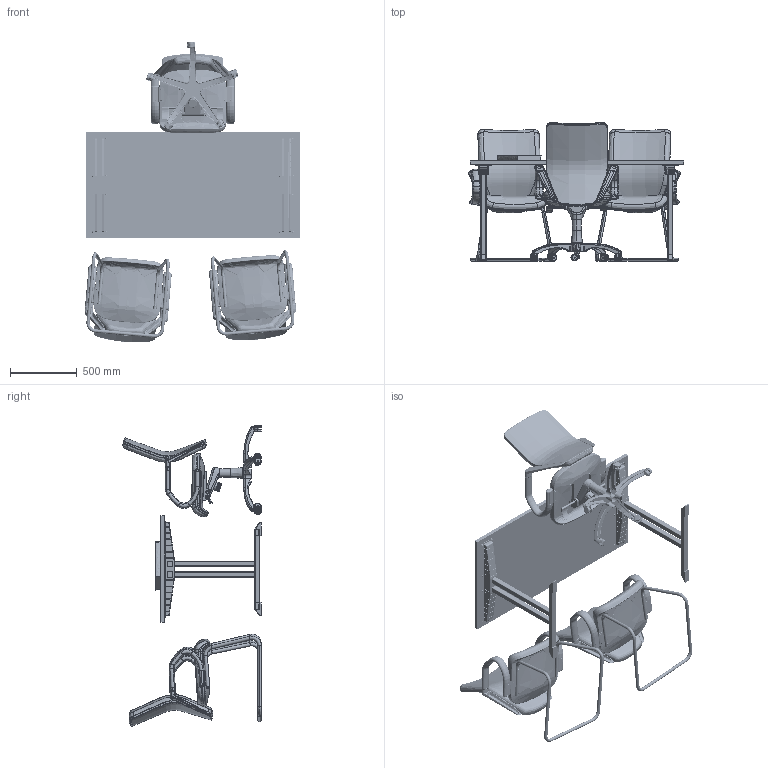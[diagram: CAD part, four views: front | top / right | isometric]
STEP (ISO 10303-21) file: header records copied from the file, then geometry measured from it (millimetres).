
FILE_DESCRIPTION (( 'STEP AP214' ), '1' );
FILE_NAME ('Graffic_Office-Suite-2.STEP', '2025-09-07T10:58:45', ( '' ), ( '' ), 'SwSTEP 2.0', 'SolidWorks 2023', '' );
FILE_SCHEMA (( 'AUTOMOTIVE_DESIGN' ));
Length unit declared in the file: millimetre
Products named in the file (34): Desk-18_012; Graffic_003; Desk-18_202; Graffic_304; Graffic_302; Graffic_031; Graffic_160; Graffic_901; Graffic_503; Graffic_Office-Suite-2; Desk-18_001; Graffic_103; Graffic_301; Desk-18_212; Graffic_210; Graffic_101; Graffic_502; Graffic_001; Desk-18_101; Graffic_501; Graffic_102; Graffic_211; Book; Graffic_205; Graffic_305; Graffic_601; Graffic_303; Graffic_902; Desk-901; Graffic_012; Graffic_911; Desk-911; Graffic_204; Graffic_206
Assembly tree (91 placements, depth 4):
  Graffic_Office-Suite-2
    Desk-18_001
      Desk-18_101
      Desk-18_012  x2
        Desk-18_202
        Desk-18_212
      Desk-911  x16
      Desk-901  x16
    Graffic_001
      Graffic_501
      Graffic_502  x5
      Graffic_503
      Graffic_031
        Graffic_301
        Graffic_302
        Graffic_303
        Graffic_305  x2
        Graffic_304  x2
      Graffic_012
        Graffic_101
        Graffic_102
        Graffic_103
        Graffic_204
        Graffic_205
        Graffic_206  x2
        Graffic_210  x2
        Graffic_211  x2
        Graffic_901  x8
        Graffic_160
      Graffic_901  x4
    Graffic_003  x2
      Graffic_012
        Graffic_101
        Graffic_102
        Graffic_103
        Graffic_204
        Graffic_205
        Graffic_206  x2
        Graffic_210  x2
        Graffic_211  x2
        Graffic_901  x8
        Graffic_160
      Graffic_601
      Graffic_902
      Graffic_911
    Book
Bounding box: 1611.9 x 1037.2 x 2253.43 mm (x, y, z)
Volume: 140239824.2 mm3; surface area: 16814747 mm2
Topology: 147 solids, 148 shells, 5244 faces, 12675 edges, 7849 vertices
Faces by surface type: cylinder 1713, plane 1636, bspline 760, torus 559, cone 546, sphere 30
Entity records: 106736 total; most frequent: CARTESIAN_POINT 60006, ORIENTED_EDGE 8452, DIRECTION 7643, EDGE_CURVE 4226, AXIS2_PLACEMENT_3D 2957, VERTEX_POINT 2660, EDGE_LOOP 1812, VECTOR 1729
